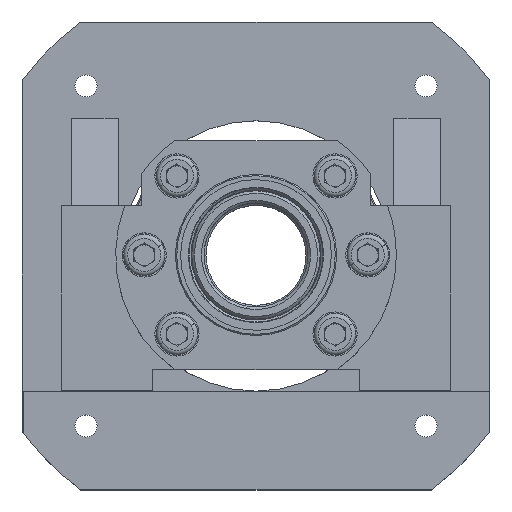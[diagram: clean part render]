
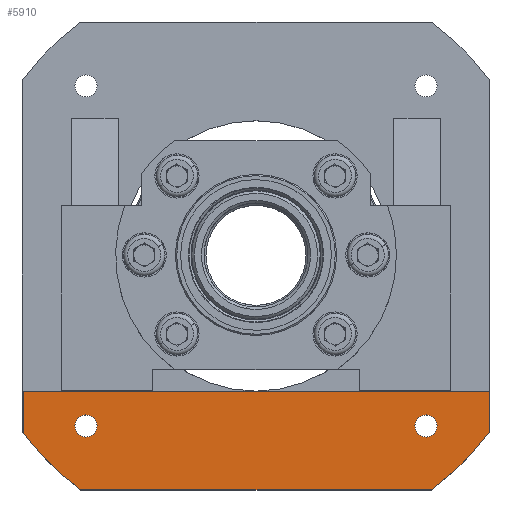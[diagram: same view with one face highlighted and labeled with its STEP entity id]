
A CAD part, top view. The second image highlights one B-rep face of the part: STEP entity #5910.
In plain terms, the highlighted planar face has unit normal (0, 0, 1).
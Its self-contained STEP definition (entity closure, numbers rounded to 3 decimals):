
#210 = CIRCLE ( 'NONE', #6992, 112.5 ) ;
#548 = EDGE_LOOP ( 'NONE', ( #13126, #3585 ) ) ;
#773 = VERTEX_POINT ( 'NONE', #16437 ) ;
#1785 = CARTESIAN_POINT ( 'NONE',  ( -65.407, -65.407, 21. ) ) ;
#2066 = CARTESIAN_POINT ( 'NONE',  ( 65.407, -65.407, 21. ) ) ;
#2212 = EDGE_CURVE ( 'NONE', #18397, #2795, #8096, .T. ) ;
#2305 = LINE ( 'NONE', #22721, #20180 ) ;
#2333 = CARTESIAN_POINT ( 'NONE',  ( -89.586, -68.048, 21. ) ) ;
#2384 = CARTESIAN_POINT ( 'NONE',  ( -69.657, -65.407, 21. ) ) ;
#2443 = DIRECTION ( 'NONE',  ( 0., -1., 0. ) ) ;
#2795 = VERTEX_POINT ( 'NONE', #17260 ) ;
#2890 = CARTESIAN_POINT ( 'NONE',  ( 61.157, -65.407, 21. ) ) ;
#3585 = ORIENTED_EDGE ( 'NONE', *, *, #13775, .F. ) ;
#3646 = VERTEX_POINT ( 'NONE', #12847 ) ;
#3926 = CARTESIAN_POINT ( 'NONE',  ( -90., -90., 21. ) ) ;
#4120 = DIRECTION ( 'NONE',  ( -1., 0., 0. ) ) ;
#4131 = AXIS2_PLACEMENT_3D ( 'NONE', #8307, #24594, #10656 ) ;
#4198 = EDGE_CURVE ( 'NONE', #27850, #10587, #2305, .T. ) ;
#4375 = EDGE_CURVE ( 'NONE', #17909, #22189, #19459, .T. ) ;
#4402 = DIRECTION ( 'NONE',  ( -1., 0., 0. ) ) ;
#5910 = ADVANCED_FACE ( 'NONE', ( #6792, #12274, #13002 ), #22362, .F. ) ;
#5965 = CARTESIAN_POINT ( 'NONE',  ( 0., 0., 21. ) ) ;
#6213 = ORIENTED_EDGE ( 'NONE', *, *, #11282, .T. ) ;
#6792 = FACE_BOUND ( 'NONE', #548, .T. ) ;
#6992 = AXIS2_PLACEMENT_3D ( 'NONE', #9282, #25565, #11633 ) ;
#7075 = EDGE_CURVE ( 'NONE', #773, #27850, #13803, .T. ) ;
#7373 = LINE ( 'NONE', #18763, #13599 ) ;
#7943 = CARTESIAN_POINT ( 'NONE',  ( -61.157, -65.407, 21. ) ) ;
#8096 = LINE ( 'NONE', #3926, #14320 ) ;
#8307 = CARTESIAN_POINT ( 'NONE',  ( 65.407, -65.407, 21. ) ) ;
#8462 = CARTESIAN_POINT ( 'NONE',  ( 90., -67.5, 21. ) ) ;
#8472 = CARTESIAN_POINT ( 'NONE',  ( -0.107, -52., 21. ) ) ;
#8977 = CIRCLE ( 'NONE', #23018, 4.25 ) ;
#9282 = CARTESIAN_POINT ( 'NONE',  ( 0., 0., 21. ) ) ;
#9342 = AXIS2_PLACEMENT_3D ( 'NONE', #9980, #21012, #11730 ) ;
#9489 = ORIENTED_EDGE ( 'NONE', *, *, #10940, .T. ) ;
#9980 = CARTESIAN_POINT ( 'NONE',  ( 0., 0., 21. ) ) ;
#10537 = DIRECTION ( 'NONE',  ( -1., 0., 0. ) ) ;
#10587 = VERTEX_POINT ( 'NONE', #2333 ) ;
#10656 = DIRECTION ( 'NONE',  ( -1., 0., 0. ) ) ;
#10763 = DIRECTION ( 'NONE',  ( -1., 0., 0. ) ) ;
#10940 = EDGE_CURVE ( 'NONE', #3646, #14251, #18473, .T. ) ;
#11080 = ORIENTED_EDGE ( 'NONE', *, *, #24407, .T. ) ;
#11282 = EDGE_CURVE ( 'NONE', #10587, #2795, #210, .T. ) ;
#11633 = DIRECTION ( 'NONE',  ( -1., 0., 0. ) ) ;
#11730 = DIRECTION ( 'NONE',  ( -1., 0., 0. ) ) ;
#11890 = CARTESIAN_POINT ( 'NONE',  ( -65.407, -65.407, 21. ) ) ;
#12249 = VECTOR ( 'NONE', #27207, 1000. ) ;
#12274 = FACE_BOUND ( 'NONE', #20592, .T. ) ;
#12634 = EDGE_CURVE ( 'NONE', #28221, #21496, #8977, .T. ) ;
#12847 = CARTESIAN_POINT ( 'NONE',  ( 90., -51.999, 21. ) ) ;
#13002 = FACE_OUTER_BOUND ( 'NONE', #21074, .T. ) ;
#13099 = ORIENTED_EDGE ( 'NONE', *, *, #27938, .F. ) ;
#13126 = ORIENTED_EDGE ( 'NONE', *, *, #4375, .F. ) ;
#13599 = VECTOR ( 'NONE', #2443, 1000. ) ;
#13775 = EDGE_CURVE ( 'NONE', #22189, #17909, #27515, .T. ) ;
#13803 = LINE ( 'NONE', #22145, #25440 ) ;
#14251 = VERTEX_POINT ( 'NONE', #16483 ) ;
#14259 = DIRECTION ( 'NONE',  ( -1., 0., 0. ) ) ;
#14320 = VECTOR ( 'NONE', #17908, 1000. ) ;
#14386 = CARTESIAN_POINT ( 'NONE',  ( 69.657, -65.407, 21. ) ) ;
#14464 = AXIS2_PLACEMENT_3D ( 'NONE', #1785, #18110, #4120 ) ;
#16437 = CARTESIAN_POINT ( 'NONE',  ( -0.322, -51.999, 21. ) ) ;
#16483 = CARTESIAN_POINT ( 'NONE',  ( 0.322, -51.999, 21. ) ) ;
#17260 = CARTESIAN_POINT ( 'NONE',  ( -67.5, -90., 21. ) ) ;
#17781 = CARTESIAN_POINT ( 'NONE',  ( 0.322, -51.999, 21. ) ) ;
#17908 = DIRECTION ( 'NONE',  ( -1., 0., 0. ) ) ;
#17909 = VERTEX_POINT ( 'NONE', #2890 ) ;
#18003 = CARTESIAN_POINT ( 'NONE',  ( -89.586, -51.999, 21. ) ) ;
#18110 = DIRECTION ( 'NONE',  ( 0., 0., 1. ) ) ;
#18384 = DIRECTION ( 'NONE',  ( 0., 0., 1. ) ) ;
#18397 = VERTEX_POINT ( 'NONE', #19912 ) ;
#18473 = LINE ( 'NONE', #24864, #12249 ) ;
#18552 = ORIENTED_EDGE ( 'NONE', *, *, #22097, .F. ) ;
#18763 = CARTESIAN_POINT ( 'NONE',  ( 90., 90., 21. ) ) ;
#18815 = ORIENTED_EDGE ( 'NONE', *, *, #2212, .F. ) ;
#18859 = VERTEX_POINT ( 'NONE', #8462 ) ;
#18966 = ORIENTED_EDGE ( 'NONE', *, *, #12634, .F. ) ;
#19459 = CIRCLE ( 'NONE', #23926, 4.25 ) ;
#19912 = CARTESIAN_POINT ( 'NONE',  ( 67.5, -90., 21. ) ) ;
#20180 = VECTOR ( 'NONE', #25060, 1000. ) ;
#20592 = EDGE_LOOP ( 'NONE', ( #18966, #13099 ) ) ;
#21012 = DIRECTION ( 'NONE',  ( 0., 0., 1. ) ) ;
#21074 = EDGE_LOOP ( 'NONE', ( #23754, #25908, #6213, #18815, #29285, #18552, #9489, #11080 ) ) ;
#21496 = VERTEX_POINT ( 'NONE', #7943 ) ;
#22097 = EDGE_CURVE ( 'NONE', #3646, #18859, #7373, .T. ) ;
#22145 = CARTESIAN_POINT ( 'NONE',  ( -89.586, -51.999, 21. ) ) ;
#22189 = VERTEX_POINT ( 'NONE', #14386 ) ;
#22362 = PLANE ( 'NONE',  #29382 ) ;
#22432 = CARTESIAN_POINT ( 'NONE',  ( 0.107, -52., 21. ) ) ;
#22721 = CARTESIAN_POINT ( 'NONE',  ( -89.586, -122.034, 21. ) ) ;
#23018 = AXIS2_PLACEMENT_3D ( 'NONE', #11890, #28165, #14259 ) ;
#23754 = ORIENTED_EDGE ( 'NONE', *, *, #7075, .T. ) ;
#23926 = AXIS2_PLACEMENT_3D ( 'NONE', #2066, #18384, #4402 ) ;
#24407 = EDGE_CURVE ( 'NONE', #14251, #773, #26705, .T. ) ;
#24594 = DIRECTION ( 'NONE',  ( 0., 0., 1. ) ) ;
#24694 = DIRECTION ( 'NONE',  ( 0., 0., -1. ) ) ;
#24761 = CARTESIAN_POINT ( 'NONE',  ( -0.322, -51.999, 21. ) ) ;
#24864 = CARTESIAN_POINT ( 'NONE',  ( -89.586, -51.999, 21. ) ) ;
#25060 = DIRECTION ( 'NONE',  ( 0., -1., 0. ) ) ;
#25291 = CIRCLE ( 'NONE', #14464, 4.25 ) ;
#25440 = VECTOR ( 'NONE', #10537, 1000. ) ;
#25565 = DIRECTION ( 'NONE',  ( 0., 0., 1. ) ) ;
#25908 = ORIENTED_EDGE ( 'NONE', *, *, #4198, .T. ) ;
#26504 = EDGE_CURVE ( 'NONE', #18397, #18859, #27509, .T. ) ;
#26705 = B_SPLINE_CURVE_WITH_KNOTS ( 'NONE', 3,
 ( #17781, #22432, #8472, #24761 ),
 .UNSPECIFIED., .F., .F.,
 ( 4, 4 ),
 ( 0., 1. ),
 .UNSPECIFIED. ) ;
#27207 = DIRECTION ( 'NONE',  ( -1., 0., 0. ) ) ;
#27509 = CIRCLE ( 'NONE', #9342, 112.5 ) ;
#27515 = CIRCLE ( 'NONE', #4131, 4.25 ) ;
#27850 = VERTEX_POINT ( 'NONE', #18003 ) ;
#27938 = EDGE_CURVE ( 'NONE', #21496, #28221, #25291, .T. ) ;
#28165 = DIRECTION ( 'NONE',  ( 0., 0., 1. ) ) ;
#28221 = VERTEX_POINT ( 'NONE', #2384 ) ;
#29285 = ORIENTED_EDGE ( 'NONE', *, *, #26504, .T. ) ;
#29382 = AXIS2_PLACEMENT_3D ( 'NONE', #5965, #24694, #10763 ) ;
